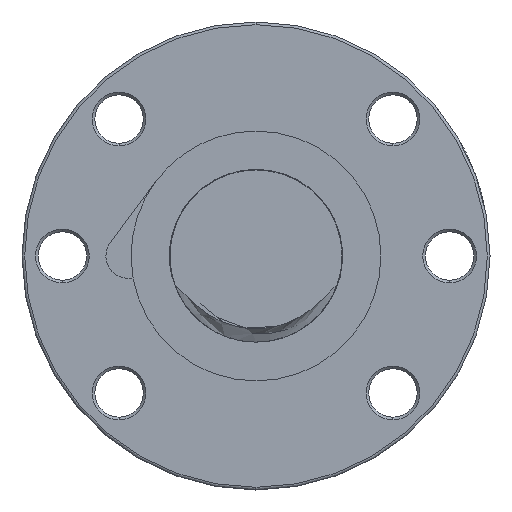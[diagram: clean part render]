
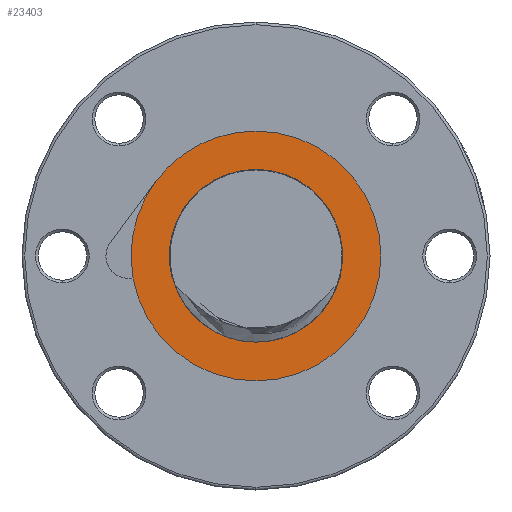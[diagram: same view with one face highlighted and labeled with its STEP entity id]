
A CAD part, left-side view. The second image highlights one B-rep face of the part: STEP entity #23403.
In plain terms, the highlighted planar face has unit normal (-1, 0, 0).
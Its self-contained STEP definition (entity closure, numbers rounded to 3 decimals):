
#14119 = CARTESIAN_POINT ( 'NONE',  ( -179.8, 15.587, -4.033 ) ) ;
#14121 = DIRECTION ( 'NONE',  ( 0., 0., 1. ) ) ;
#14123 = DIRECTION ( 'NONE',  ( -1., 0., 0. ) ) ;
#14125 = CARTESIAN_POINT ( 'NONE',  ( -179.8, 0., 0. ) ) ;
#14127 = AXIS2_PLACEMENT_3D ( 'NONE', #14125, #14123, #14121 ) ;
#14129 = CIRCLE ( 'NONE', #14127, 16.1 ) ;
#14403 = AXIS2_PLACEMENT_3D ( 'NONE', #14566, #14564, #14562 ) ;
#14415 = PLANE ( 'NONE',  #14403 ) ;
#14426 = FACE_OUTER_BOUND ( 'NONE', #23413, .T. ) ;
#14427 = FACE_BOUND ( 'NONE', #23404, .T. ) ;
#14478 = CARTESIAN_POINT ( 'NONE',  ( -179.8, -10.166, -10.229 ) ) ;
#14480 = CARTESIAN_POINT ( 'NONE',  ( -179.8, -8.938, -11.062 ) ) ;
#14482 = CARTESIAN_POINT ( 'NONE',  ( -179.8, -7.268, -11.903 ) ) ;
#14484 = CARTESIAN_POINT ( 'NONE',  ( -179.8, -6.926, -12.062 ) ) ;
#14486 = CARTESIAN_POINT ( 'NONE',  ( -179.8, -6.234, -12.356 ) ) ;
#14488 = CARTESIAN_POINT ( 'NONE',  ( -179.8, -5.886, -12.492 ) ) ;
#14490 = CARTESIAN_POINT ( 'NONE',  ( -179.8, -4.83, -12.861 ) ) ;
#14492 = CARTESIAN_POINT ( 'NONE',  ( -179.8, -4.113, -13.059 ) ) ;
#14494 = CARTESIAN_POINT ( 'NONE',  ( -179.8, -3.018, -13.282 ) ) ;
#14496 = CARTESIAN_POINT ( 'NONE',  ( -179.8, -2.649, -13.344 ) ) ;
#14498 = CARTESIAN_POINT ( 'NONE',  ( -179.8, -1.906, -13.443 ) ) ;
#14500 = CARTESIAN_POINT ( 'NONE',  ( -179.8, -1.53, -13.479 ) ) ;
#14502 = CARTESIAN_POINT ( 'NONE',  ( -179.8, -0.408, -13.548 ) ) ;
#14504 = CARTESIAN_POINT ( 'NONE',  ( -179.8, 0.336, -13.541 ) ) ;
#14505 = CARTESIAN_POINT ( 'NONE',  ( -179.8, 1.815, -13.423 ) ) ;
#14507 = CARTESIAN_POINT ( 'NONE',  ( -179.8, 2.55, -13.313 ) ) ;
#14510 = CARTESIAN_POINT ( 'NONE',  ( -179.8, 3.647, -13.068 ) ) ;
#14512 = CARTESIAN_POINT ( 'NONE',  ( -179.8, 4.013, -12.972 ) ) ;
#14514 = CARTESIAN_POINT ( 'NONE',  ( -179.8, 4.73, -12.757 ) ) ;
#14516 = CARTESIAN_POINT ( 'NONE',  ( -179.8, 5.083, -12.638 ) ) ;
#14518 = CARTESIAN_POINT ( 'NONE',  ( -179.8, 6.82, -11.985 ) ) ;
#14520 = CARTESIAN_POINT ( 'NONE',  ( -179.8, 8.119, -11.281 ) ) ;
#14522 = CARTESIAN_POINT ( 'NONE',  ( -179.8, 9.637, -10.191 ) ) ;
#14524 = CARTESIAN_POINT ( 'NONE',  ( -179.8, 9.936, -9.961 ) ) ;
#14526 = CARTESIAN_POINT ( 'NONE',  ( -179.8, 10.517, -9.487 ) ) ;
#14528 = CARTESIAN_POINT ( 'NONE',  ( -179.8, 10.799, -9.242 ) ) ;
#14530 = CARTESIAN_POINT ( 'NONE',  ( -179.8, 11.624, -8.485 ) ) ;
#14532 = CARTESIAN_POINT ( 'NONE',  ( -179.8, 12.143, -7.952 ) ) ;
#14533 = CARTESIAN_POINT ( 'NONE',  ( -179.8, 13.136, -6.841 ) ) ;
#14535 = CARTESIAN_POINT ( 'NONE',  ( -179.8, 13.608, -6.262 ) ) ;
#14537 = CARTESIAN_POINT ( 'NONE',  ( -179.8, 14.312, -5.391 ) ) ;
#14539 = CARTESIAN_POINT ( 'NONE',  ( -179.8, 14.546, -5.1 ) ) ;
#14541 = CARTESIAN_POINT ( 'NONE',  ( -179.8, 14.912, -4.677 ) ) ;
#14542 = CARTESIAN_POINT ( 'NONE',  ( -179.8, 15.036, -4.538 ) ) ;
#14543 = CARTESIAN_POINT ( 'NONE',  ( -179.8, 15.298, -4.272 ) ) ;
#14545 = CARTESIAN_POINT ( 'NONE',  ( -179.8, 15.435, -4.144 ) ) ;
#14547 = CARTESIAN_POINT ( 'NONE',  ( -179.8, 15.587, -4.033 ) ) ;
#14553 = B_SPLINE_CURVE_WITH_KNOTS ( 'NONE', 3,
 ( #14547, #14545, #14543, #14542, #14541, #14539, #14537, #14535, #14533, #14532, #14530, #14528, #14526, #14524, #14522, #14520, #14518, #14516, #14514, #14512, #14510, #14507, #14505, #14504, #14502, #14500, #14498, #14496, #14494, #14492, #14490, #14488, #14486, #14484, #14482, #14480, #14478, #14640, #14638, #14637, #14635, #14633, #14631, #14629, #14627, #14625 ),
 .UNSPECIFIED., .F., .F.,
 ( 4, 2, 2, 2, 2, 2, 2, 2, 2, 2, 2, 2, 2, 2, 2, 2, 2, 2, 2, 2, 2, 2, 4 ),
 ( 0.051, 0.052, 0.052, 0.053, 0.056, 0.058, 0.059, 0.06, 0.065, 0.066, 0.067, 0.069, 0.072, 0.073, 0.074, 0.076, 0.077, 0.078, 0.083, 0.085, 0.086, 0.087, 0.087 ),
 .UNSPECIFIED. ) ;
#14555 = CARTESIAN_POINT ( 'NONE',  ( -179.8, 0., 0. ) ) ;
#14562 = DIRECTION ( 'NONE',  ( 0., 0., 1. ) ) ;
#14564 = DIRECTION ( 'NONE',  ( -1., 0., 0. ) ) ;
#14566 = CARTESIAN_POINT ( 'NONE',  ( -179.8, 0., 16.1 ) ) ;
#14615 = DIRECTION ( 'NONE',  ( 0., 0., 1. ) ) ;
#14617 = DIRECTION ( 'NONE',  ( -1., 0., 0. ) ) ;
#14618 = AXIS2_PLACEMENT_3D ( 'NONE', #14555, #14617, #14615 ) ;
#14620 = CIRCLE ( 'NONE', #14618, 23.225 ) ;
#14625 = CARTESIAN_POINT ( 'NONE',  ( -179.8, -14.764, -6.422 ) ) ;
#14627 = CARTESIAN_POINT ( 'NONE',  ( -179.8, -14.598, -6.507 ) ) ;
#14629 = CARTESIAN_POINT ( 'NONE',  ( -179.8, -14.442, -6.612 ) ) ;
#14631 = CARTESIAN_POINT ( 'NONE',  ( -179.8, -14.141, -6.835 ) ) ;
#14633 = CARTESIAN_POINT ( 'NONE',  ( -179.8, -13.996, -6.953 ) ) ;
#14635 = CARTESIAN_POINT ( 'NONE',  ( -179.8, -13.567, -7.315 ) ) ;
#14637 = CARTESIAN_POINT ( 'NONE',  ( -179.8, -13.289, -7.566 ) ) ;
#14638 = CARTESIAN_POINT ( 'NONE',  ( -179.8, -12.456, -8.318 ) ) ;
#14640 = CARTESIAN_POINT ( 'NONE',  ( -179.8, -11.898, -8.817 ) ) ;
#14644 = CARTESIAN_POINT ( 'NONE',  ( -179.8, 22.863, -4.085 ) ) ;
#14647 = DIRECTION ( 'NONE',  ( 0., 0., 1. ) ) ;
#14649 = DIRECTION ( 'NONE',  ( -1., 0., 0. ) ) ;
#14650 = CARTESIAN_POINT ( 'NONE',  ( -179.8, 0., 0. ) ) ;
#14652 = AXIS2_PLACEMENT_3D ( 'NONE', #14650, #14649, #14647 ) ;
#14654 = CIRCLE ( 'NONE', #14652, 23.225 ) ;
#15105 = CARTESIAN_POINT ( 'NONE',  ( -179.8, 18.649, 13.843 ) ) ;
#15108 = DIRECTION ( 'NONE',  ( 0., 0., 1. ) ) ;
#15109 = DIRECTION ( 'NONE',  ( -1., 0., 0. ) ) ;
#15111 = AXIS2_PLACEMENT_3D ( 'NONE', #15126, #15109, #15108 ) ;
#15113 = CIRCLE ( 'NONE', #15111, 23.225 ) ;
#15126 = CARTESIAN_POINT ( 'NONE',  ( -179.8, 0., 0. ) ) ;
#22621 = DIRECTION ( 'NONE',  ( 0., 0., 1. ) ) ;
#22623 = DIRECTION ( 'NONE',  ( -1., 0., 0. ) ) ;
#22625 = AXIS2_PLACEMENT_3D ( 'NONE', #22643, #22623, #22621 ) ;
#22627 = CIRCLE ( 'NONE', #22625, 16.1 ) ;
#22628 = CARTESIAN_POINT ( 'NONE',  ( -179.8, 0., 16.1 ) ) ;
#22640 = CARTESIAN_POINT ( 'NONE',  ( -179.8, -14.764, -6.422 ) ) ;
#22643 = CARTESIAN_POINT ( 'NONE',  ( -179.8, 0., 0. ) ) ;
#22718 = CARTESIAN_POINT ( 'NONE',  ( -179.8, 0., 23.225 ) ) ;
#22719 = CARTESIAN_POINT ( 'NONE',  ( -179.8, 0., -23.225 ) ) ;
#22720 = DIRECTION ( 'NONE',  ( 0., 0., 1. ) ) ;
#22721 = DIRECTION ( 'NONE',  ( -1., 0., 0. ) ) ;
#22722 = CARTESIAN_POINT ( 'NONE',  ( -179.8, 0., 0. ) ) ;
#22723 = AXIS2_PLACEMENT_3D ( 'NONE', #22722, #22721, #22720 ) ;
#22724 = CIRCLE ( 'NONE', #22723, 23.225 ) ;
#22814 = EDGE_CURVE ( 'NONE', #22815, #22816, #22724, .T. ) ;
#22815 = VERTEX_POINT ( 'NONE', #22719 ) ;
#22816 = VERTEX_POINT ( 'NONE', #22718 ) ;
#22855 = VERTEX_POINT ( 'NONE', #22640 ) ;
#22857 = EDGE_CURVE ( 'NONE', #22855, #22858, #22627, .T. ) ;
#22858 = VERTEX_POINT ( 'NONE', #22628 ) ;
#23358 = EDGE_CURVE ( 'NONE', #22858, #23360, #14129, .T. ) ;
#23360 = VERTEX_POINT ( 'NONE', #14119 ) ;
#23403 = ADVANCED_FACE ( 'NONE', ( #14427, #14426 ), #14415, .T. ) ;
#23404 = EDGE_LOOP ( 'NONE', ( #23405, #23407, #23410 ) ) ;
#23405 = ORIENTED_EDGE ( 'NONE', *, *, #22857, .F. ) ;
#23407 = ORIENTED_EDGE ( 'NONE', *, *, #23409, .F. ) ;
#23409 = EDGE_CURVE ( 'NONE', #23360, #22855, #14553, .T. ) ;
#23410 = ORIENTED_EDGE ( 'NONE', *, *, #23358, .F. ) ;
#23413 = EDGE_LOOP ( 'NONE', ( #23415, #23418, #23420, #23422 ) ) ;
#23415 = ORIENTED_EDGE ( 'NONE', *, *, #23416, .T. ) ;
#23416 = EDGE_CURVE ( 'NONE', #23761, #23475, #14620, .T. ) ;
#23418 = ORIENTED_EDGE ( 'NONE', *, *, #23473, .T. ) ;
#23420 = ORIENTED_EDGE ( 'NONE', *, *, #22814, .T. ) ;
#23422 = ORIENTED_EDGE ( 'NONE', *, *, #23759, .T. ) ;
#23473 = EDGE_CURVE ( 'NONE', #23475, #22815, #14654, .T. ) ;
#23475 = VERTEX_POINT ( 'NONE', #14644 ) ;
#23759 = EDGE_CURVE ( 'NONE', #22816, #23761, #15113, .T. ) ;
#23761 = VERTEX_POINT ( 'NONE', #15105 ) ;
